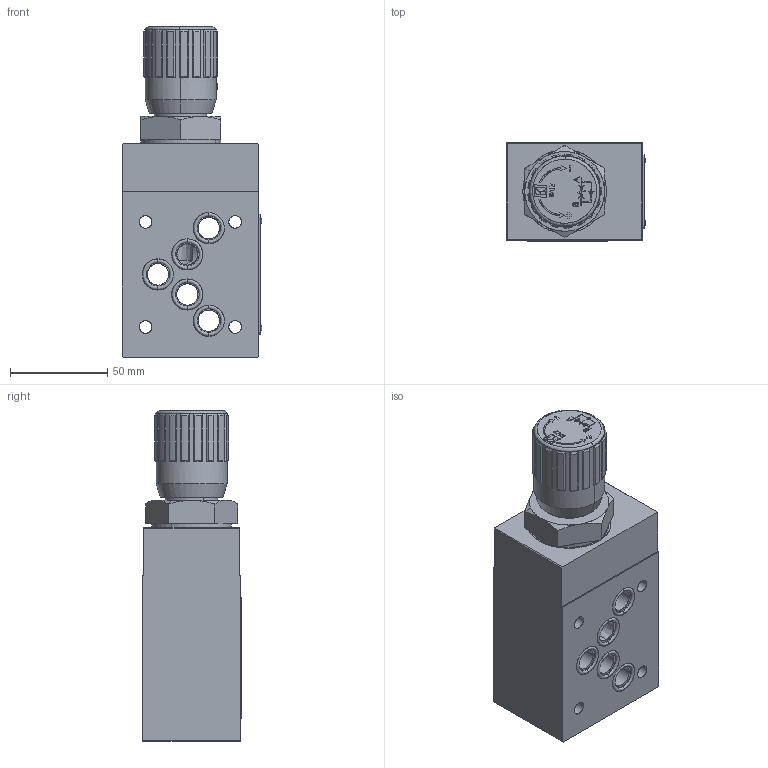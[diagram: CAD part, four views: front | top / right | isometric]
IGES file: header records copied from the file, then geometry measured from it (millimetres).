
Start section: SolidWorks IGES file using analytic representation for surfaces
Global section: file name: C:\Users\pc-te25\Desktop\357-5-A-05-H.IGS; native system: SolidWorks 2018; preprocessor: SolidWorks 2018; author: pc-te25; date: 200601.135027; units: millimetre
Bounding box: 71.66 x 50.58 x 169.8 mm (x, y, z)
Surface area: 98786.2 mm2 (no closed solid volume)
Topology: 0 solids, 0 shells, 2221 faces, 25630 edges, 25616 vertices
Faces by surface type: bspline 1630, revolution 591
